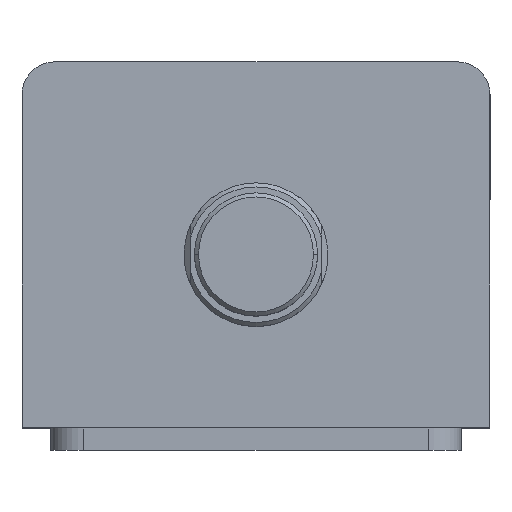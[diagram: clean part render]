
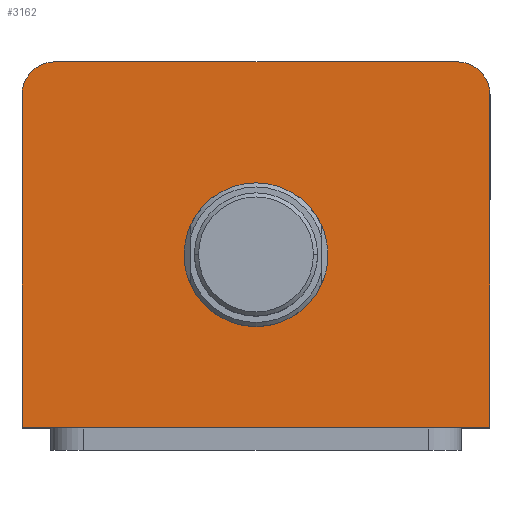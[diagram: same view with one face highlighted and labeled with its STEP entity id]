
A CAD part, top view. The second image highlights one B-rep face of the part: STEP entity #3162.
In plain terms, the highlighted planar face has unit normal (0, 0, 1).
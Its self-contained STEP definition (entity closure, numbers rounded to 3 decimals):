
#135 = LINE ( 'NONE', #1303, #288 ) ;
#192 = ORIENTED_EDGE ( 'NONE', *, *, #2233, .F. ) ;
#193 = ORIENTED_EDGE ( 'NONE', *, *, #2255, .F. ) ;
#194 = ORIENTED_EDGE ( 'NONE', *, *, #2170, .T. ) ;
#195 = ORIENTED_EDGE ( 'NONE', *, *, #509, .T. ) ;
#196 = ORIENTED_EDGE ( 'NONE', *, *, #2247, .T. ) ;
#288 = VECTOR ( 'NONE', #1312, 1000. ) ;
#297 = DIRECTION ( 'NONE',  ( 1., 0., 0. ) ) ;
#375 = CARTESIAN_POINT ( 'NONE',  ( -57., -44.5, 172. ) ) ;
#428 = DIRECTION ( 'NONE',  ( 1., 0., 0. ) ) ;
#429 = DIRECTION ( 'NONE',  ( 0., 0., 1. ) ) ;
#430 = CARTESIAN_POINT ( 'NONE',  ( 0., -2.5, 172. ) ) ;
#457 = DIRECTION ( 'NONE',  ( 0., -1., 0. ) ) ;
#458 = CARTESIAN_POINT ( 'NONE',  ( -57., 44.5, 172. ) ) ;
#494 = DIRECTION ( 'NONE',  ( 1., 0., 0. ) ) ;
#496 = DIRECTION ( 'NONE',  ( 0., 0., 1. ) ) ;
#497 = CARTESIAN_POINT ( 'NONE',  ( 0., -2.5, 172. ) ) ;
#509 = EDGE_CURVE ( 'NONE', #851, #774, #510, .T. ) ;
#510 = CIRCLE ( 'NONE', #2415, 8. ) ;
#526 = EDGE_LOOP ( 'NONE', ( #192, #193 ) ) ;
#529 = EDGE_LOOP ( 'NONE', ( #194, #195, #196, #2120, #2121, #2122 ) ) ;
#774 = VERTEX_POINT ( 'NONE', #3450 ) ;
#824 = VERTEX_POINT ( 'NONE', #1514 ) ;
#838 = VERTEX_POINT ( 'NONE', #1525 ) ;
#851 = VERTEX_POINT ( 'NONE', #1482 ) ;
#857 = VERTEX_POINT ( 'NONE', #1473 ) ;
#883 = VERTEX_POINT ( 'NONE', #1412 ) ;
#892 = VERTEX_POINT ( 'NONE', #1403 ) ;
#898 = VERTEX_POINT ( 'NONE', #1395 ) ;
#1288 = DIRECTION ( 'NONE',  ( 1., 0., 0. ) ) ;
#1290 = DIRECTION ( 'NONE',  ( 0., 0., 1. ) ) ;
#1292 = CARTESIAN_POINT ( 'NONE',  ( 49., 36.5, 172. ) ) ;
#1303 = CARTESIAN_POINT ( 'NONE',  ( 57., 44.5, 172. ) ) ;
#1312 = DIRECTION ( 'NONE',  ( 0., 1., 0. ) ) ;
#1395 = CARTESIAN_POINT ( 'NONE',  ( 57., 36.5, 172. ) ) ;
#1403 = CARTESIAN_POINT ( 'NONE',  ( -17.5, -2.5, 172. ) ) ;
#1412 = CARTESIAN_POINT ( 'NONE',  ( 49., 44.5, 172. ) ) ;
#1461 = DIRECTION ( 'NONE',  ( -1., 0., 0. ) ) ;
#1466 = CARTESIAN_POINT ( 'NONE',  ( -57., 44.5, 172. ) ) ;
#1473 = CARTESIAN_POINT ( 'NONE',  ( -57., -44.5, 172. ) ) ;
#1482 = CARTESIAN_POINT ( 'NONE',  ( -49., 44.5, 172. ) ) ;
#1514 = CARTESIAN_POINT ( 'NONE',  ( 17.5, -2.5, 172. ) ) ;
#1525 = CARTESIAN_POINT ( 'NONE',  ( 57., -44.5, 172. ) ) ;
#1581 = LINE ( 'NONE', #375, #1596 ) ;
#1596 = VECTOR ( 'NONE', #297, 1000. ) ;
#1603 = CIRCLE ( 'NONE', #2443, 17.5 ) ;
#1626 = LINE ( 'NONE', #458, #1629 ) ;
#1629 = VECTOR ( 'NONE', #457, 1000. ) ;
#1637 = CIRCLE ( 'NONE', #2452, 17.5 ) ;
#1901 = FACE_BOUND ( 'NONE', #526, .T. ) ;
#1905 = FACE_OUTER_BOUND ( 'NONE', #529, .T. ) ;
#2119 = CIRCLE ( 'NONE', #2422, 8. ) ;
#2120 = ORIENTED_EDGE ( 'NONE', *, *, #2227, .T. ) ;
#2121 = ORIENTED_EDGE ( 'NONE', *, *, #2196, .T. ) ;
#2122 = ORIENTED_EDGE ( 'NONE', *, *, #2157, .T. ) ;
#2157 = EDGE_CURVE ( 'NONE', #898, #883, #2119, .T. ) ;
#2170 = EDGE_CURVE ( 'NONE', #883, #851, #3700, .T. ) ;
#2196 = EDGE_CURVE ( 'NONE', #838, #898, #135, .T. ) ;
#2227 = EDGE_CURVE ( 'NONE', #857, #838, #1581, .T. ) ;
#2233 = EDGE_CURVE ( 'NONE', #824, #892, #1603, .T. ) ;
#2247 = EDGE_CURVE ( 'NONE', #774, #857, #1626, .T. ) ;
#2255 = EDGE_CURVE ( 'NONE', #892, #824, #1637, .T. ) ;
#2415 = AXIS2_PLACEMENT_3D ( 'NONE', #3470, #3465, #3466 ) ;
#2422 = AXIS2_PLACEMENT_3D ( 'NONE', #1292, #1290, #1288 ) ;
#2443 = AXIS2_PLACEMENT_3D ( 'NONE', #497, #496, #494 ) ;
#2452 = AXIS2_PLACEMENT_3D ( 'NONE', #430, #429, #428 ) ;
#2556 = AXIS2_PLACEMENT_3D ( 'NONE', #2917, #2911, #2910 ) ;
#2849 = VECTOR ( 'NONE', #1461, 1000. ) ;
#2910 = DIRECTION ( 'NONE',  ( 1., 0., 0. ) ) ;
#2911 = DIRECTION ( 'NONE',  ( 0., 0., 1. ) ) ;
#2913 = PLANE ( 'NONE',  #2556 ) ;
#2917 = CARTESIAN_POINT ( 'NONE',  ( 0., 0., 172. ) ) ;
#3162 = ADVANCED_FACE ( 'NONE', ( #1901, #1905 ), #2913, .T. ) ;
#3450 = CARTESIAN_POINT ( 'NONE',  ( -57., 36.5, 172. ) ) ;
#3465 = DIRECTION ( 'NONE',  ( 0., 0., 1. ) ) ;
#3466 = DIRECTION ( 'NONE',  ( 1., 0., 0. ) ) ;
#3470 = CARTESIAN_POINT ( 'NONE',  ( -49., 36.5, 172. ) ) ;
#3700 = LINE ( 'NONE', #1466, #2849 ) ;
